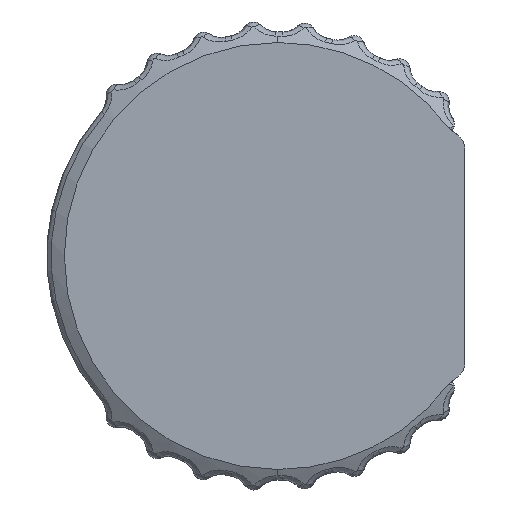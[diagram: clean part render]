
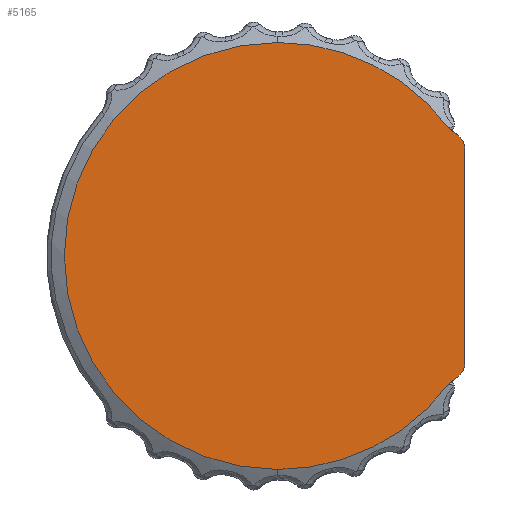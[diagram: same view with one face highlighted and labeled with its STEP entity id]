
A CAD part, left-side view. The second image highlights one B-rep face of the part: STEP entity #5165.
In plain terms, the highlighted planar face has unit normal (-1, 0, 0).
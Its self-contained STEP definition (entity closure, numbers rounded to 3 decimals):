
#6 = VERTEX_POINT ( 'NONE', #9395 ) ;
#17 = CARTESIAN_POINT ( 'NONE',  ( 0., -5.29, 3.05 ) ) ;
#63 = CARTESIAN_POINT ( 'NONE',  ( 0., -4.82, 3.64 ) ) ;
#210 = FACE_OUTER_BOUND ( 'NONE', #13841, .T. ) ;
#669 = LINE ( 'NONE', #13063, #10551 ) ;
#771 = DIRECTION ( 'NONE',  ( 0., 0., -1. ) ) ;
#842 = CARTESIAN_POINT ( 'NONE',  ( 0., 0., 0. ) ) ;
#1049 = EDGE_CURVE ( 'NONE', #5167, #7918, #3349, .T. ) ;
#1926 = CARTESIAN_POINT ( 'NONE',  ( 0., -5.29, 3.05 ) ) ;
#2097 = DIRECTION ( 'NONE',  ( 1., 0., 0. ) ) ;
#2098 = CIRCLE ( 'NONE', #10455, 0.43 ) ;
#2314 = AXIS2_PLACEMENT_3D ( 'NONE', #3043, #4259, #8684 ) ;
#2316 = DIRECTION ( 'NONE',  ( 0., -0.77, -0.639 ) ) ;
#2363 = EDGE_CURVE ( 'NONE', #6, #13688, #13270, .T. ) ;
#2485 = CARTESIAN_POINT ( 'NONE',  ( 0., -5.106, 3.403 ) ) ;
#2529 = DIRECTION ( 'NONE',  ( 0., 0., -1. ) ) ;
#2586 = EDGE_CURVE ( 'NONE', #7918, #6, #13956, .T. ) ;
#2816 = DIRECTION ( 'NONE',  ( 1., 0., 0. ) ) ;
#2894 = CARTESIAN_POINT ( 'NONE',  ( 0., -5.106, -3.403 ) ) ;
#3031 = CARTESIAN_POINT ( 'NONE',  ( 0., -4.86, -3.05 ) ) ;
#3043 = CARTESIAN_POINT ( 'NONE',  ( 0., 0., 0. ) ) ;
#3349 = CIRCLE ( 'NONE', #13363, 6.04 ) ;
#3621 = DIRECTION ( 'NONE',  ( 0., 0., -1. ) ) ;
#3891 = EDGE_CURVE ( 'NONE', #13688, #7632, #10159, .T. ) ;
#4013 = EDGE_CURVE ( 'NONE', #7632, #7567, #2098, .T. ) ;
#4259 = DIRECTION ( 'NONE',  ( 1., 0., 0. ) ) ;
#4270 = CARTESIAN_POINT ( 'NONE',  ( 0., 0., 0. ) ) ;
#4432 = CARTESIAN_POINT ( 'NONE',  ( 0., 0., -6.04 ) ) ;
#4512 = ORIENTED_EDGE ( 'NONE', *, *, #5376, .F. ) ;
#4645 = EDGE_CURVE ( 'NONE', #13244, #5167, #669, .T. ) ;
#5165 = ADVANCED_FACE ( 'NONE', ( #210 ), #12371, .F. ) ;
#5167 = VERTEX_POINT ( 'NONE', #12445 ) ;
#5338 = DIRECTION ( 'NONE',  ( 0., 0., -1. ) ) ;
#5376 = EDGE_CURVE ( 'NONE', #7567, #13672, #10716, .T. ) ;
#6186 = DIRECTION ( 'NONE',  ( 0., 0.77, -0.639 ) ) ;
#6309 = ORIENTED_EDGE ( 'NONE', *, *, #12214, .F. ) ;
#6484 = CARTESIAN_POINT ( 'NONE',  ( 0., -5.29, -3.05 ) ) ;
#6891 = CARTESIAN_POINT ( 'NONE',  ( 0., 2.159, 0. ) ) ;
#7052 = AXIS2_PLACEMENT_3D ( 'NONE', #6891, #8999, #3621 ) ;
#7440 = VECTOR ( 'NONE', #2316, 1000. ) ;
#7567 = VERTEX_POINT ( 'NONE', #17 ) ;
#7632 = VERTEX_POINT ( 'NONE', #2485 ) ;
#7918 = VERTEX_POINT ( 'NONE', #4432 ) ;
#7990 = ORIENTED_EDGE ( 'NONE', *, *, #3891, .F. ) ;
#8249 = CARTESIAN_POINT ( 'NONE',  ( 0., -4.86, 3.05 ) ) ;
#8684 = DIRECTION ( 'NONE',  ( 0., 0., -1. ) ) ;
#8999 = DIRECTION ( 'NONE',  ( 1., 0., 0. ) ) ;
#9009 = AXIS2_PLACEMENT_3D ( 'NONE', #3031, #10794, #771 ) ;
#9395 = CARTESIAN_POINT ( 'NONE',  ( 0., 0., 6.04 ) ) ;
#9512 = AXIS2_PLACEMENT_3D ( 'NONE', #842, #9917, #5338 ) ;
#9917 = DIRECTION ( 'NONE',  ( 1., 0., 0. ) ) ;
#10159 = LINE ( 'NONE', #63, #7440 ) ;
#10455 = AXIS2_PLACEMENT_3D ( 'NONE', #8249, #2816, #2529 ) ;
#10494 = ORIENTED_EDGE ( 'NONE', *, *, #1049, .F. ) ;
#10551 = VECTOR ( 'NONE', #6186, 1000. ) ;
#10566 = VECTOR ( 'NONE', #11829, 1000. ) ;
#10716 = LINE ( 'NONE', #1926, #10566 ) ;
#10794 = DIRECTION ( 'NONE',  ( 1., 0., 0. ) ) ;
#11120 = CIRCLE ( 'NONE', #9009, 0.43 ) ;
#11139 = CARTESIAN_POINT ( 'NONE',  ( 0., -4.82, 3.64 ) ) ;
#11829 = DIRECTION ( 'NONE',  ( 0., 0., -1. ) ) ;
#12164 = ORIENTED_EDGE ( 'NONE', *, *, #2363, .F. ) ;
#12214 = EDGE_CURVE ( 'NONE', #13672, #13244, #11120, .T. ) ;
#12238 = ORIENTED_EDGE ( 'NONE', *, *, #2586, .F. ) ;
#12371 = PLANE ( 'NONE',  #7052 ) ;
#12445 = CARTESIAN_POINT ( 'NONE',  ( 0., -4.82, -3.64 ) ) ;
#13063 = CARTESIAN_POINT ( 'NONE',  ( 0., -4.82, -3.64 ) ) ;
#13244 = VERTEX_POINT ( 'NONE', #2894 ) ;
#13270 = CIRCLE ( 'NONE', #2314, 6.04 ) ;
#13363 = AXIS2_PLACEMENT_3D ( 'NONE', #4270, #2097, #14214 ) ;
#13672 = VERTEX_POINT ( 'NONE', #6484 ) ;
#13688 = VERTEX_POINT ( 'NONE', #11139 ) ;
#13841 = EDGE_LOOP ( 'NONE', ( #10494, #14234, #6309, #4512, #13872, #7990, #12164, #12238 ) ) ;
#13872 = ORIENTED_EDGE ( 'NONE', *, *, #4013, .F. ) ;
#13956 = CIRCLE ( 'NONE', #9512, 6.04 ) ;
#14214 = DIRECTION ( 'NONE',  ( 0., 0., -1. ) ) ;
#14234 = ORIENTED_EDGE ( 'NONE', *, *, #4645, .F. ) ;
